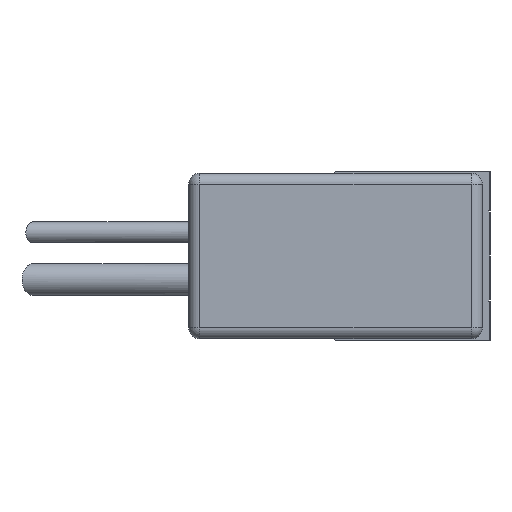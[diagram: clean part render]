
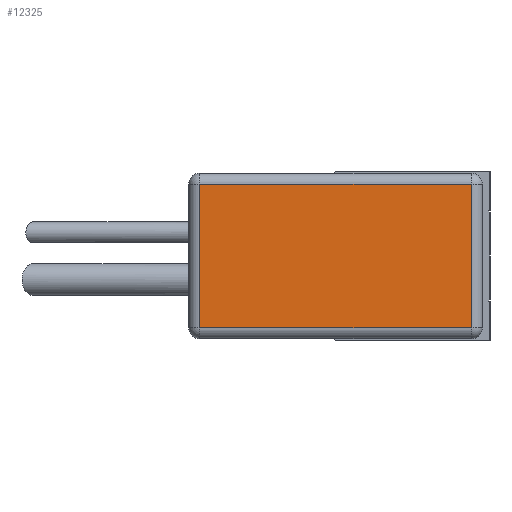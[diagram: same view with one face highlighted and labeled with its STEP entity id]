
A CAD part, left-side view. The second image highlights one B-rep face of the part: STEP entity #12325.
In plain terms, the highlighted planar face has unit normal (-1, 0, 0) as drawn and (0, 0, -1) by its records, which use the part's own axes.
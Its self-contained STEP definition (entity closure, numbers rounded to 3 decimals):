
#782=PLANE('',#20137);
#2320=VERTEX_POINT('',#18948);
#2321=VERTEX_POINT('',#18952);
#2325=VERTEX_POINT('',#18960);
#2330=VERTEX_POINT('',#18973);
#3644=VECTOR('',#15338,1.);
#3646=VECTOR('',#15342,1.);
#3648=VECTOR('',#15346,1.);
#3651=VECTOR('',#15353,1.);
#4949=LINE('',#18985,#3644);
#4951=LINE('',#18988,#3646);
#4953=LINE('',#18991,#3648);
#4956=LINE('',#18996,#3651);
#6634=EDGE_CURVE('',#2321,#2330,#4949,.T.);
#6636=EDGE_CURVE('',#2330,#2325,#4951,.T.);
#6638=EDGE_CURVE('',#2325,#2320,#4953,.T.);
#6641=EDGE_CURVE('',#2320,#2321,#4956,.T.);
#10019=ORIENTED_EDGE('',*,*,#6634,.F.);
#10020=ORIENTED_EDGE('',*,*,#6641,.F.);
#10021=ORIENTED_EDGE('',*,*,#6638,.F.);
#10022=ORIENTED_EDGE('',*,*,#6636,.F.);
#10859=EDGE_LOOP('',(#10019,#10020,#10021,#10022));
#11634=FACE_BOUND('',#10859,.T.);
#12325=ADVANCED_FACE('',(#11634),#782,.T.);
#15338=DIRECTION('',(0.,-1.,0.));
#15342=DIRECTION('',(1.,0.,0.));
#15346=DIRECTION('',(0.,1.,0.));
#15353=DIRECTION('',(-1.,0.,0.));
#15375=DIRECTION('',(0.,0.,-1.));
#18948=CARTESIAN_POINT('',(1.9,5.2,-9.1));
#18952=CARTESIAN_POINT('',(-1.9,5.2,-9.1));
#18960=CARTESIAN_POINT('',(1.9,-2.,-9.1));
#18973=CARTESIAN_POINT('',(-1.9,-2.,-9.1));
#18985=CARTESIAN_POINT('',(-1.9,3.125,-9.1));
#18988=CARTESIAN_POINT('',(-2.,-2.,-9.1));
#18991=CARTESIAN_POINT('',(1.9,0.1,-9.1));
#18996=CARTESIAN_POINT('',(-1.1,5.2,-9.1));
#19023=CARTESIAN_POINT('',(-2.2,2.1,-9.1));
#20137=AXIS2_PLACEMENT_3D('',#19023,#15375,$);
